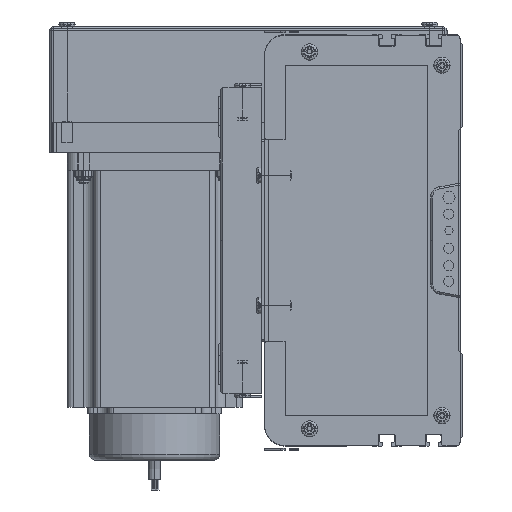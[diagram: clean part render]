
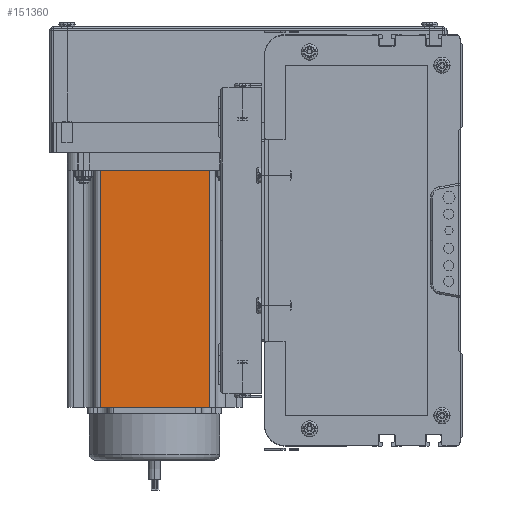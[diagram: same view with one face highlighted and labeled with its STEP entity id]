
A CAD part, left-side view. The second image highlights one B-rep face of the part: STEP entity #151360.
In plain terms, the highlighted planar face has unit normal (-1, 0, 0) as drawn and (0, -1, 0) by its records, which use the part's own axes.
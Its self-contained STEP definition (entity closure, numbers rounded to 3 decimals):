
#8264 = LINE ( 'NONE', #8723, #8722 ) ;
#8298 = DIRECTION ( 'NONE',  ( 1., 0., 0. ) ) ;
#8300 = VECTOR ( 'NONE', #8298, 1000. ) ;
#8387 = CARTESIAN_POINT ( 'NONE',  ( 0., 0., 116.5 ) ) ;
#8388 = LINE ( 'NONE', #8387, #8300 ) ;
#8406 = CARTESIAN_POINT ( 'NONE',  ( 69.74, 0., 0. ) ) ;
#8446 = DIRECTION ( 'NONE',  ( 0., 0., -1. ) ) ;
#8452 = CARTESIAN_POINT ( 'NONE',  ( 16.16, 0., 0. ) ) ;
#8525 = CARTESIAN_POINT ( 'NONE',  ( 69.74, 0., 116.5 ) ) ;
#8669 = CARTESIAN_POINT ( 'NONE',  ( 16.16, 0., 116.5 ) ) ;
#8722 = VECTOR ( 'NONE', #8446, 1000. ) ;
#8723 = CARTESIAN_POINT ( 'NONE',  ( 16.16, 0., 116.5 ) ) ;
#8917 = DIRECTION ( 'NONE',  ( 0., 0., 1. ) ) ;
#8918 = DIRECTION ( 'NONE',  ( 0., 1., 0. ) ) ;
#8921 = CARTESIAN_POINT ( 'NONE',  ( 0., 0., 116.5 ) ) ;
#8925 = CARTESIAN_POINT ( 'NONE',  ( 69.74, 0., 116.5 ) ) ;
#8926 = LINE ( 'NONE', #8925, #9124 ) ;
#9075 = PLANE ( 'NONE',  #9314 ) ;
#9117 = DIRECTION ( 'NONE',  ( 1., 0., 0. ) ) ;
#9119 = VECTOR ( 'NONE', #9117, 1000. ) ;
#9121 = CARTESIAN_POINT ( 'NONE',  ( 0., 0., 0. ) ) ;
#9122 = LINE ( 'NONE', #9121, #9119 ) ;
#9123 = DIRECTION ( 'NONE',  ( 0., 0., 1. ) ) ;
#9124 = VECTOR ( 'NONE', #9123, 1000. ) ;
#9314 = AXIS2_PLACEMENT_3D ( 'NONE', #8921, #8918, #8917 ) ;
#9320 = FACE_OUTER_BOUND ( 'NONE', #151292, .T. ) ;
#151219 = VERTEX_POINT ( 'NONE', #8525 ) ;
#151220 = VERTEX_POINT ( 'NONE', #8669 ) ;
#151222 = VERTEX_POINT ( 'NONE', #8452 ) ;
#151226 = EDGE_CURVE ( 'NONE', #151220, #151222, #8264, .T. ) ;
#151275 = ORIENTED_EDGE ( 'NONE', *, *, #151226, .T. ) ;
#151276 = EDGE_CURVE ( 'NONE', #151220, #151219, #8388, .T. ) ;
#151282 = ORIENTED_EDGE ( 'NONE', *, *, #151276, .F. ) ;
#151284 = ORIENTED_EDGE ( 'NONE', *, *, #151362, .T. ) ;
#151289 = VERTEX_POINT ( 'NONE', #8406 ) ;
#151291 = ORIENTED_EDGE ( 'NONE', *, *, #151361, .T. ) ;
#151292 = EDGE_LOOP ( 'NONE', ( #151284, #151291, #151282, #151275 ) ) ;
#151360 = ADVANCED_FACE ( 'NONE', ( #9320 ), #9075, .F. ) ;
#151361 = EDGE_CURVE ( 'NONE', #151289, #151219, #8926, .T. ) ;
#151362 = EDGE_CURVE ( 'NONE', #151222, #151289, #9122, .T. ) ;
